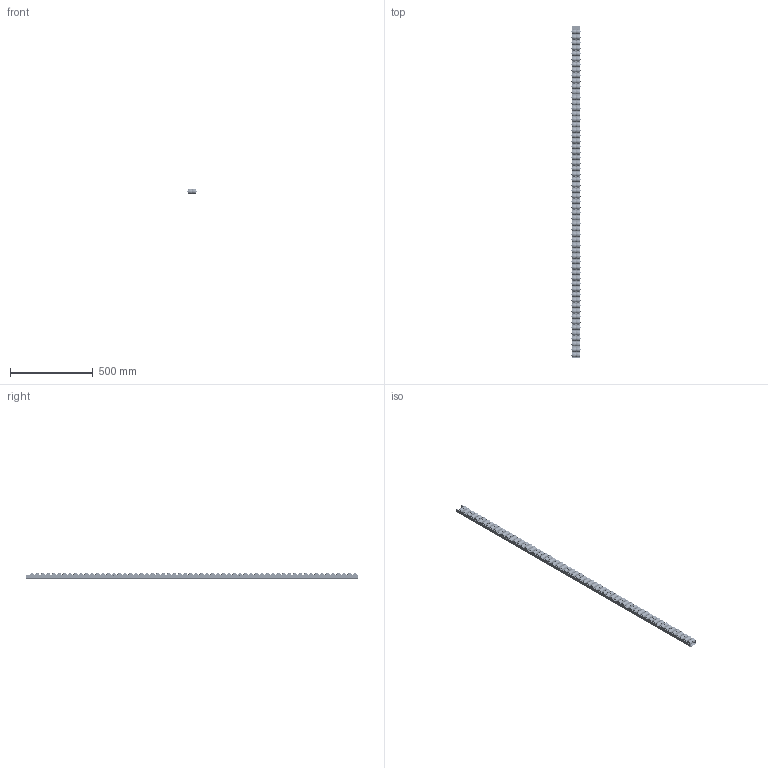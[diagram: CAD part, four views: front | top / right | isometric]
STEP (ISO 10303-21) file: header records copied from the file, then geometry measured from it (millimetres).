
FILE_DESCRIPTION(/* description */ ('Unknown'),/* implementation_level */ '2;1');
FILE_NAME(/* name */ 'Listwa T200G',/* time_stamp */ '2022-10-26T10:07:01+02:00',/* author */ ('Unknown'),/* organization */ ('Unknown'),/* preprocessor_version */ 'ST-DEVELOPER v16.7',/* originating_system */ 'Solid Edge',/* authorisation */ 'Unknown');
FILE_SCHEMA (('AUTOMOTIVE_DESIGN {1 0 10303 214 3 1 1}'));
Length unit declared in the file: millimetre
Products named in the file (6): Listwa T102G; Ceownik T102; Rolka T 100G; 790-02-01; 790-02-02; Nit.
Assembly tree (183 placements, depth 3):
  Listwa T102G
    Ceownik T102
    Rolka T 100G  x120
      790-02-01
      790-02-02
    Nit.  x60
Bounding box: 55 x 2000 x 34.88 mm (x, y, z)
Volume: 1900358.8 mm3; surface area: 1460863.7 mm2
Topology: 301 solids, 301 shells, 10365 faces, 28032 edges, 18629 vertices
Faces by surface type: plane 8650, cylinder 1235, cone 240, torus 240
Full cylindrical faces by diameter (mm): 2 x60, 4.2 x31, 5 x60, 5.2 x120, 5.3 x120, 6 x120, 11.5 x240, 16 x240, 20 x240
Entity records: 9809 total; most frequent: DIRECTION 1828, CARTESIAN_POINT 1469, ORIENTED_EDGE 1106, AXIS2_PLACEMENT_3D 836, EDGE_LOOP 732, FACE_BOUND 732, EDGE_CURVE 553, VERTEX_POINT 477
